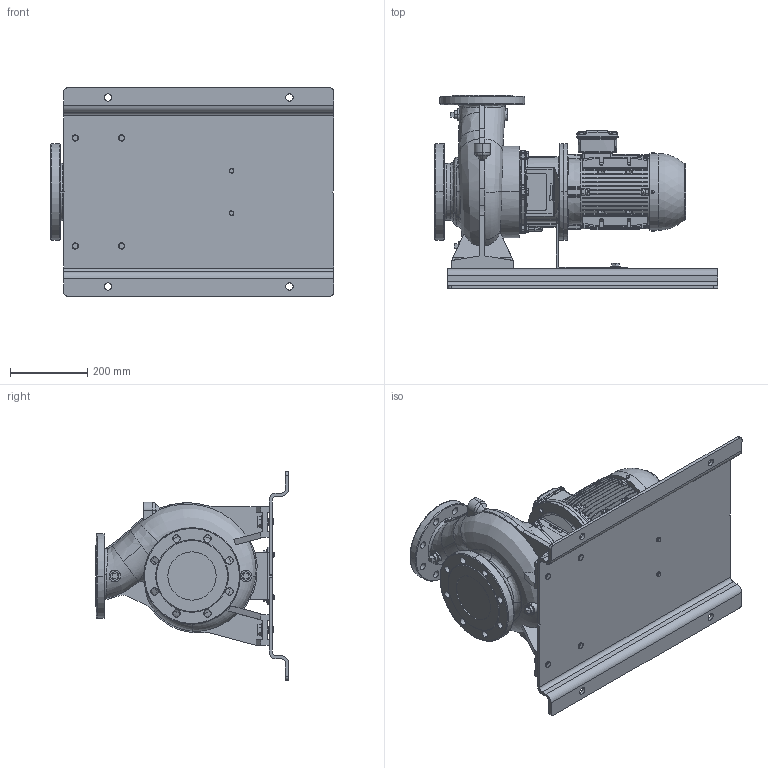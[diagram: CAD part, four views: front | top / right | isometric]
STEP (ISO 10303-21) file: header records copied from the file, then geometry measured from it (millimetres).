
FILE_DESCRIPTION (( 'STEP AP214' ), '1' );
FILE_NAME ('GSD4 100-160_2.2 & 3.0_(100L)_W21_BP.STEP', '2026-05-08T06:24:45', ( '' ), ( '' ), 'SwSTEP 2.0', 'SolidWorks 2024', '' );
FILE_SCHEMA (( 'AUTOMOTIVE_DESIGN' ));
Length unit declared in the file: millimetre
Products named in the file (9): 100-160-100L_ﾃﾞﾌｫﾙﾄ; N6S6 GSDA-661 F1-1832931-00; 100L ALIE3_W21T_B5; Parametric Flat Washer_M16; CGSD1-4173; Parametric bolt_SFT-A351B; Parametric bolt_SFT-A295B; Parametric Flat Washer_M12; GSD4 100-160_2.2 & 3.0_(100L)_W21_BP
Assembly tree (16 placements, depth 2):
  GSD4 100-160_2.2 & 3.0_(100L)_W21_BP
    100-160-100L_ﾃﾞﾌｫﾙﾄ
    100L ALIE3_W21T_B5
    N6S6 GSDA-661 F1-1832931-00
    CGSD1-4173
    Parametric bolt_SFT-A295B  x2
    Parametric bolt_SFT-A351B  x4
    Parametric Flat Washer_M16  x4
    Parametric Flat Washer_M12  x2
Bounding box: 735 x 500 x 540 mm (x, y, z)
Volume: 27478415.3 mm3; surface area: 2418761.4 mm2
Topology: 19 solids, 19 shells, 3573 faces, 9279 edges, 5973 vertices
Faces by surface type: plane 2030, cylinder 858, bspline 271, torus 245, cone 155, sphere 14
Entity records: 186646 total; most frequent: CARTESIAN_POINT 106708, ORIENTED_EDGE 17344, DIRECTION 15292, EDGE_CURVE 8672, VERTEX_POINT 5593, LINE 5364, VECTOR 5364, AXIS2_PLACEMENT_3D 4964
